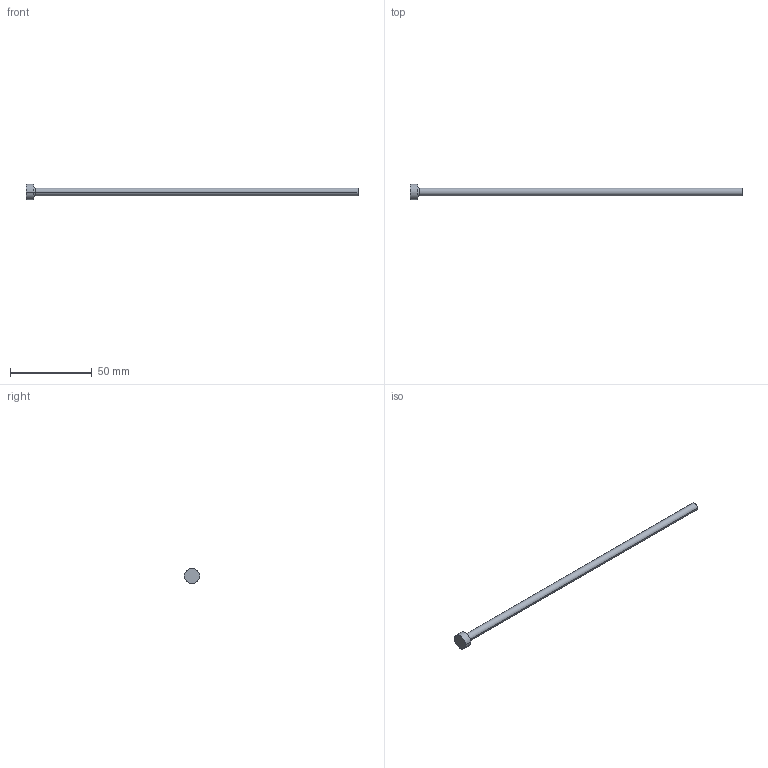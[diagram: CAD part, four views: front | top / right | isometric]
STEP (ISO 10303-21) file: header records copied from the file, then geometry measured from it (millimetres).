
FILE_DESCRIPTION (( 'STEP AP214' ), '1' );
FILE_NAME ('P13-8.STEP', '2020-03-11T18:18:51', ( '' ), ( '' ), 'SwSTEP 2.0', 'SolidWorks 2018', '' );
FILE_SCHEMA (( 'AUTOMOTIVE_DESIGN' ));
Length unit declared in the file: inch
Products named in the file (1): P13-8
Bounding box: 203.2 x 9.53 x 9.53 mm (x, y, z)
Volume: 3864.7 mm3; surface area: 3241 mm2
Topology: 1 solids, 1 shells, 13 faces, 24 edges, 14 vertices
Faces by surface type: cone 4, cylinder 4, plane 3, torus 2
Entity records: 366 total; most frequent: DIRECTION 68, CARTESIAN_POINT 52, ORIENTED_EDGE 48, AXIS2_PLACEMENT_3D 30, EDGE_CURVE 24, CIRCLE 16, EDGE_LOOP 14, VERTEX_POINT 14
